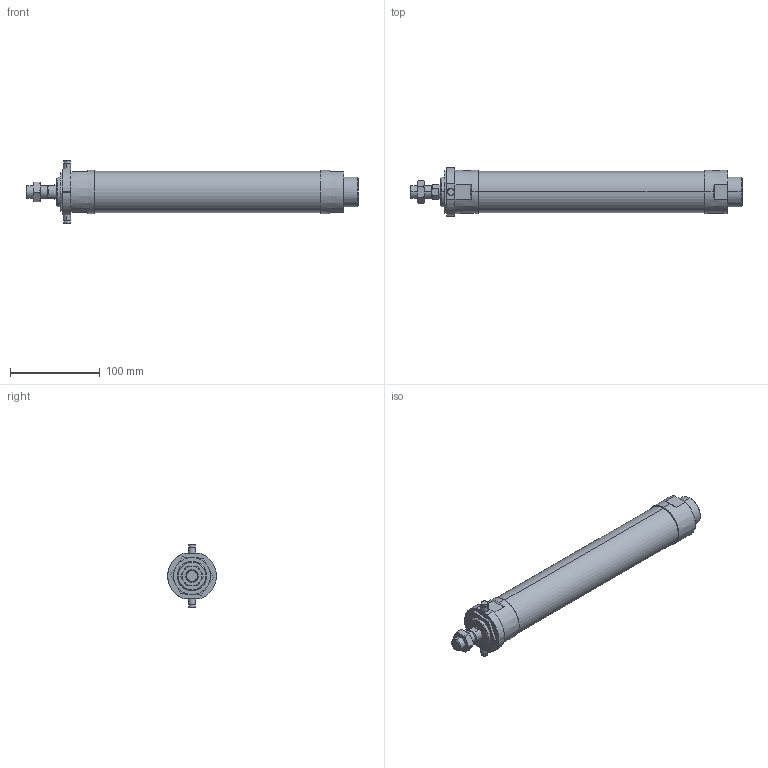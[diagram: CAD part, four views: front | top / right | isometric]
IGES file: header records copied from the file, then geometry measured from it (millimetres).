
Start section: SolidWorks IGES file using analytic representation for surfaces
Global section: file name: C:\Users\Toshiba\Desktop\J#2-40-200-T.IGS; native system: SolidWorks 2014; preprocessor: SolidWorks 2014; author: Toshiba; date: 160308.160545; units: millimetre
Bounding box: 369 x 54 x 70 mm (x, y, z)
Surface area: 63174 mm2 (no closed solid volume)
Topology: 0 solids, 0 shells, 121 faces, 2282 edges, 2278 vertices
Faces by surface type: bspline 63, revolution 58
